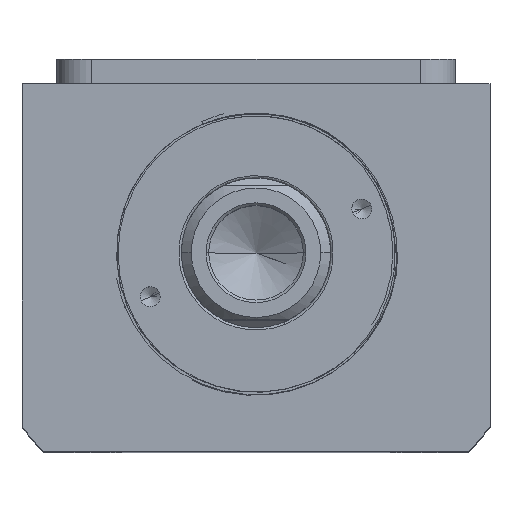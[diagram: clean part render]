
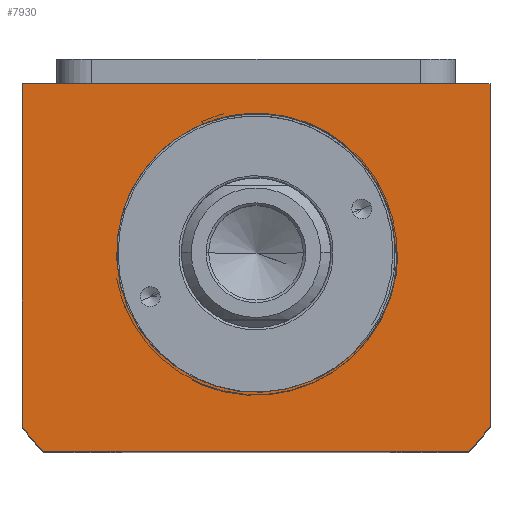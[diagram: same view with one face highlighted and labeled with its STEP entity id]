
A CAD part, top view. The second image highlights one B-rep face of the part: STEP entity #7930.
In plain terms, the highlighted planar face has unit normal (0, 0, 1).
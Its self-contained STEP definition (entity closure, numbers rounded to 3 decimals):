
#64 = AXIS2_PLACEMENT_3D ( 'NONE', #3387, #9672, #4275 ) ;
#97 = DIRECTION ( 'NONE',  ( 0., 0., 1. ) ) ;
#179 = CARTESIAN_POINT ( 'NONE',  ( 0., 0., 57.5 ) ) ;
#294 = ORIENTED_EDGE ( 'NONE', *, *, #11139, .F. ) ;
#537 = DIRECTION ( 'NONE',  ( 0., -1., 0. ) ) ;
#565 = CARTESIAN_POINT ( 'NONE',  ( 42.688, -40., 57.5 ) ) ;
#819 = DIRECTION ( 'NONE',  ( -1., 0., 0. ) ) ;
#890 = CARTESIAN_POINT ( 'NONE',  ( 22.571, -17.007, 57.5 ) ) ;
#1272 = CARTESIAN_POINT ( 'NONE',  ( 47., 34., 57.5 ) ) ;
#1345 = CARTESIAN_POINT ( 'NONE',  ( -42.688, -40., 57.5 ) ) ;
#1455 = ORIENTED_EDGE ( 'NONE', *, *, #3568, .T. ) ;
#1552 = EDGE_CURVE ( 'NONE', #5620, #10024, #2214, .T. ) ;
#1684 = VECTOR ( 'NONE', #7629, 1000. ) ;
#1745 = CARTESIAN_POINT ( 'NONE',  ( 19.714, -20.129, 57.5 ) ) ;
#1783 = CARTESIAN_POINT ( 'NONE',  ( 27.555, -6.99, 57.5 ) ) ;
#1900 = CARTESIAN_POINT ( 'NONE',  ( 0., 0., 57.5 ) ) ;
#1993 = DIRECTION ( 'NONE',  ( -1., 0., 0. ) ) ;
#2006 = AXIS2_PLACEMENT_3D ( 'NONE', #10781, #3498, #10814 ) ;
#2156 = ORIENTED_EDGE ( 'NONE', *, *, #7618, .T. ) ;
#2214 = CIRCLE ( 'NONE', #9264, 28. ) ;
#2547 = VERTEX_POINT ( 'NONE', #8426 ) ;
#2554 = CARTESIAN_POINT ( 'NONE',  ( 28.485, -0.71, 57.5 ) ) ;
#2567 = VECTOR ( 'NONE', #537, 1000. ) ;
#2633 = CARTESIAN_POINT ( 'NONE',  ( 18.667, -21.077, 57.5 ) ) ;
#2642 = CARTESIAN_POINT ( 'NONE',  ( -47., 34., 57.5 ) ) ;
#2666 = CARTESIAN_POINT ( 'NONE',  ( 28.323, -2.832, 57.5 ) ) ;
#2836 = VERTEX_POINT ( 'NONE', #11413 ) ;
#3005 = CARTESIAN_POINT ( 'NONE',  ( 15.3, -23.593, 57.5 ) ) ;
#3205 = VECTOR ( 'NONE', #1993, 1000. ) ;
#3322 = CARTESIAN_POINT ( 'NONE',  ( 47., -34.832, 57.5 ) ) ;
#3387 = CARTESIAN_POINT ( 'NONE',  ( 0., 0., 57.5 ) ) ;
#3425 = EDGE_CURVE ( 'NONE', #2836, #10534, #9821, .T. ) ;
#3498 = DIRECTION ( 'NONE',  ( 0., 0., 1. ) ) ;
#3523 = CARTESIAN_POINT ( 'NONE',  ( 16.467, -22.819, 57.5 ) ) ;
#3568 = EDGE_CURVE ( 'NONE', #9572, #2836, #4047, .T. ) ;
#3714 = LINE ( 'NONE', #9713, #5687 ) ;
#3735 = LINE ( 'NONE', #565, #4163 ) ;
#4047 = LINE ( 'NONE', #1272, #1684 ) ;
#4099 = CARTESIAN_POINT ( 'NONE',  ( 11.542, -25.544, 57.5 ) ) ;
#4163 = VECTOR ( 'NONE', #6847, 1000. ) ;
#4214 = FACE_OUTER_BOUND ( 'NONE', #10552, .T. ) ;
#4275 = DIRECTION ( 'NONE',  ( 1., 0., 0. ) ) ;
#4516 = PLANE ( 'NONE',  #2006 ) ;
#4913 = ORIENTED_EDGE ( 'NONE', *, *, #7029, .T. ) ;
#5084 = CARTESIAN_POINT ( 'NONE',  ( 28., 0., 57.5 ) ) ;
#5328 = CARTESIAN_POINT ( 'NONE',  ( 26.163, -10.961, 57.5 ) ) ;
#5336 = ORIENTED_EDGE ( 'NONE', *, *, #3425, .T. ) ;
#5620 = VERTEX_POINT ( 'NONE', #7359 ) ;
#5687 = VECTOR ( 'NONE', #819, 1000. ) ;
#5828 = EDGE_CURVE ( 'NONE', #6527, #8575, #3735, .T. ) ;
#6056 = AXIS2_PLACEMENT_3D ( 'NONE', #179, #97, #6445 ) ;
#6155 = CARTESIAN_POINT ( 'NONE',  ( 28.495, 0., 57.5 ) ) ;
#6210 = LINE ( 'NONE', #9629, #2567 ) ;
#6236 = CARTESIAN_POINT ( 'NONE',  ( 24.178, -14.712, 57.5 ) ) ;
#6445 = DIRECTION ( 'NONE',  ( 1., 0., 0. ) ) ;
#6456 = B_SPLINE_CURVE_WITH_KNOTS ( 'NONE', 3,
 ( #6155, #2554, #8017, #2666, #7149, #10728, #1783, #7113, #5328, #11618, #6236, #890, #8064, #8973, #1745, #2633, #8935, #3523, #3005, #8867, #10525, #4099, #10393, #7991 ),
 .UNSPECIFIED., .F., .F.,
 ( 4, 2, 2, 2, 2, 2, 2, 2, 2, 2, 2, 4 ),
 ( 0., 0.002, 0.004, 0.009, 0.013, 0.017, 0.021, 0.023, 0.026, 0.03, 0.032, 0.034 ),
 .UNSPECIFIED. ) ;
#6527 = VERTEX_POINT ( 'NONE', #1345 ) ;
#6660 = ORIENTED_EDGE ( 'NONE', *, *, #11239, .T. ) ;
#6847 = DIRECTION ( 'NONE',  ( 1., 0., 0. ) ) ;
#7029 = EDGE_CURVE ( 'NONE', #2547, #6527, #10422, .T. ) ;
#7052 = ORIENTED_EDGE ( 'NONE', *, *, #5828, .T. ) ;
#7113 = CARTESIAN_POINT ( 'NONE',  ( 26.694, -9.657, 57.5 ) ) ;
#7149 = CARTESIAN_POINT ( 'NONE',  ( 28.233, -3.538, 57.5 ) ) ;
#7359 = CARTESIAN_POINT ( 'NONE',  ( 10.232, -26.064, 57.5 ) ) ;
#7618 = EDGE_CURVE ( 'NONE', #9857, #5620, #6456, .T. ) ;
#7629 = DIRECTION ( 'NONE',  ( 0., 1., 0. ) ) ;
#7687 = CARTESIAN_POINT ( 'NONE',  ( 42.688, -40., 57.5 ) ) ;
#7772 = ORIENTED_EDGE ( 'NONE', *, *, #8241, .T. ) ;
#7930 = ADVANCED_FACE ( 'NONE', ( #9031, #4214 ), #4516, .T. ) ;
#7991 = CARTESIAN_POINT ( 'NONE',  ( 10.232, -26.064, 57.5 ) ) ;
#8017 = CARTESIAN_POINT ( 'NONE',  ( 28.449, -1.419, 57.5 ) ) ;
#8064 = CARTESIAN_POINT ( 'NONE',  ( 21.684, -18.094, 57.5 ) ) ;
#8186 = DIRECTION ( 'NONE',  ( 0., 0., -1. ) ) ;
#8241 = EDGE_CURVE ( 'NONE', #10534, #2547, #6210, .T. ) ;
#8252 = ORIENTED_EDGE ( 'NONE', *, *, #1552, .T. ) ;
#8353 = CARTESIAN_POINT ( 'NONE',  ( -47., 34., 57.5 ) ) ;
#8426 = CARTESIAN_POINT ( 'NONE',  ( -47., -34.832, 57.5 ) ) ;
#8575 = VERTEX_POINT ( 'NONE', #7687 ) ;
#8652 = EDGE_LOOP ( 'NONE', ( #294, #2156, #8252 ) ) ;
#8867 = CARTESIAN_POINT ( 'NONE',  ( 13.459, -24.624, 57.5 ) ) ;
#8935 = CARTESIAN_POINT ( 'NONE',  ( 18.129, -21.529, 57.5 ) ) ;
#8973 = CARTESIAN_POINT ( 'NONE',  ( 20.224, -19.631, 57.5 ) ) ;
#9031 = FACE_BOUND ( 'NONE', #8652, .T. ) ;
#9264 = AXIS2_PLACEMENT_3D ( 'NONE', #1900, #8186, #9973 ) ;
#9496 = CARTESIAN_POINT ( 'NONE',  ( 28.495, 0., 57.5 ) ) ;
#9572 = VERTEX_POINT ( 'NONE', #3322 ) ;
#9629 = CARTESIAN_POINT ( 'NONE',  ( -47., -34.832, 57.5 ) ) ;
#9672 = DIRECTION ( 'NONE',  ( 0., 0., 1. ) ) ;
#9713 = CARTESIAN_POINT ( 'NONE',  ( 0., 0., 57.5 ) ) ;
#9821 = LINE ( 'NONE', #8353, #3205 ) ;
#9857 = VERTEX_POINT ( 'NONE', #9496 ) ;
#9973 = DIRECTION ( 'NONE',  ( 1., 0., 0. ) ) ;
#10024 = VERTEX_POINT ( 'NONE', #5084 ) ;
#10393 = CARTESIAN_POINT ( 'NONE',  ( 10.89, -25.816, 57.5 ) ) ;
#10422 = CIRCLE ( 'NONE', #6056, 58.5 ) ;
#10525 = CARTESIAN_POINT ( 'NONE',  ( 12.831, -24.945, 57.5 ) ) ;
#10534 = VERTEX_POINT ( 'NONE', #2642 ) ;
#10552 = EDGE_LOOP ( 'NONE', ( #5336, #7772, #4913, #7052, #6660, #1455 ) ) ;
#10728 = CARTESIAN_POINT ( 'NONE',  ( 27.887, -5.628, 57.5 ) ) ;
#10756 = CIRCLE ( 'NONE', #64, 58.5 ) ;
#10781 = CARTESIAN_POINT ( 'NONE',  ( 0., 0., 57.5 ) ) ;
#10814 = DIRECTION ( 'NONE',  ( 1., 0., 0. ) ) ;
#11139 = EDGE_CURVE ( 'NONE', #9857, #10024, #3714, .T. ) ;
#11239 = EDGE_CURVE ( 'NONE', #8575, #9572, #10756, .T. ) ;
#11413 = CARTESIAN_POINT ( 'NONE',  ( 47., 34., 57.5 ) ) ;
#11618 = CARTESIAN_POINT ( 'NONE',  ( 24.898, -13.504, 57.5 ) ) ;
